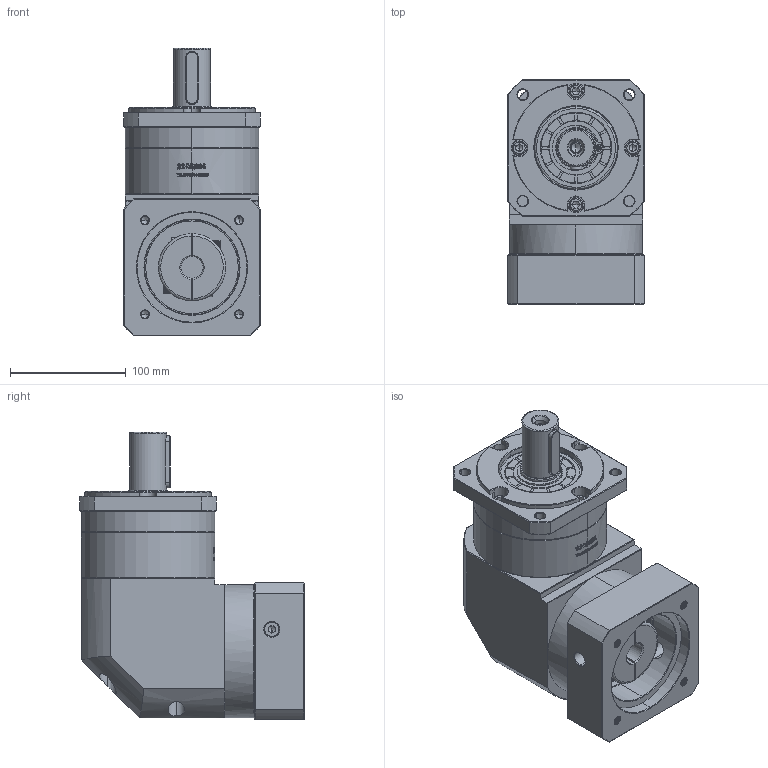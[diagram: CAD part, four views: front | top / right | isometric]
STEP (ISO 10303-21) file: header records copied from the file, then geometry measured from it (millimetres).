
FILE_DESCRIPTION (( 'STEP AP214' ), '1' );
FILE_NAME ('ZFR120A-D32-L1-19-95-115-M8.step', '2023-03-08T08:23:44', ( '' ), ( '' ), 'SwSTEP 2.0', 'SolidWorks 2016', '' );
FILE_SCHEMA (( 'AUTOMOTIVE_DESIGN' ));
Length unit declared in the file: millimetre
Products named in the file (1): ZFR120A-D32-L1-19-95-115-M8
Bounding box: 118 x 193.9 x 248 mm (x, y, z)
Volume: 2913910 mm3; surface area: 245097.4 mm2
Topology: 6 solids, 6 shells, 2869 faces, 7679 edges, 4955 vertices
Faces by surface type: plane 1484, bspline 606, cylinder 434, cone 337, torus 8
Entity records: 158140 total; most frequent: CARTESIAN_POINT 60753, ORIENTED_EDGE 15298, DIRECTION 11128, EDGE_CURVE 7649, VERTEX_POINT 4955, LINE 4748, VECTOR 4748, AXIS2_PLACEMENT_3D 3190
